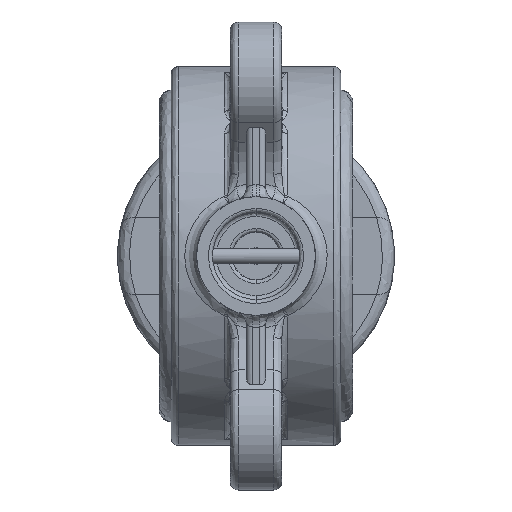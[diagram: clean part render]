
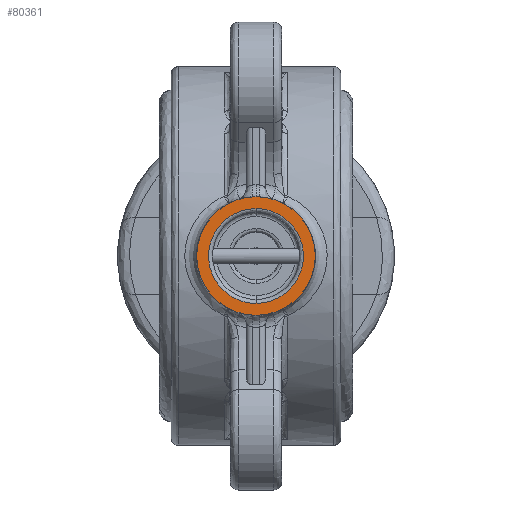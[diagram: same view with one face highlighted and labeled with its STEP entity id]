
A CAD part, front view. The second image highlights one B-rep face of the part: STEP entity #80361.
In plain terms, the highlighted planar face has unit normal (0, -1, 0).
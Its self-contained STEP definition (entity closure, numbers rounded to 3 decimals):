
#2772 = EDGE_LOOP ( 'NONE', ( #11080, #31363 ) ) ;
#3548 = EDGE_CURVE ( 'NONE', #56624, #79734, #21179, .T. ) ;
#4684 = EDGE_LOOP ( 'NONE', ( #29904, #44089 ) ) ;
#11080 = ORIENTED_EDGE ( 'NONE', *, *, #17502, .F. ) ;
#17502 = EDGE_CURVE ( 'NONE', #60844, #68730, #83138, .T. ) ;
#19090 = CARTESIAN_POINT ( 'NONE',  ( 0., -64., 12. ) ) ;
#20280 = CARTESIAN_POINT ( 'NONE',  ( 0., -64., 12. ) ) ;
#21179 = CIRCLE ( 'NONE', #69300, 15. ) ;
#21377 = AXIS2_PLACEMENT_3D ( 'NONE', #72561, #71691, #32191 ) ;
#21740 = FACE_OUTER_BOUND ( 'NONE', #4684, .T. ) ;
#22543 = CIRCLE ( 'NONE', #61669, 15. ) ;
#25433 = CARTESIAN_POINT ( 'NONE',  ( 24., -64., 12. ) ) ;
#28961 = FACE_BOUND ( 'NONE', #2772, .T. ) ;
#29904 = ORIENTED_EDGE ( 'NONE', *, *, #3548, .F. ) ;
#31363 = ORIENTED_EDGE ( 'NONE', *, *, #44327, .F. ) ;
#32191 = DIRECTION ( 'NONE',  ( 0., 0., 1. ) ) ;
#33579 = DIRECTION ( 'NONE',  ( 0., 1., 0. ) ) ;
#33727 = EDGE_CURVE ( 'NONE', #79734, #56624, #22543, .T. ) ;
#39024 = CARTESIAN_POINT ( 'NONE',  ( 24., -64., -12. ) ) ;
#39494 = CARTESIAN_POINT ( 'NONE',  ( 0., -64., 0. ) ) ;
#44089 = ORIENTED_EDGE ( 'NONE', *, *, #33727, .F. ) ;
#44327 = EDGE_CURVE ( 'NONE', #68730, #60844, #72369, .T. ) ;
#51311 = CARTESIAN_POINT ( 'NONE',  ( -24., -64., 12. ) ) ;
#51743 = CARTESIAN_POINT ( 'NONE',  ( 0., -64., -12. ) ) ;
#51907 = DIRECTION ( 'NONE',  ( 0., 0., 1. ) ) ;
#53507 = CARTESIAN_POINT ( 'NONE',  ( 0., -64., 15. ) ) ;
#56624 = VERTEX_POINT ( 'NONE', #53507 ) ;
#57079 = CARTESIAN_POINT ( 'NONE',  ( 0., -64., 12. ) ) ;
#58246 = DIRECTION ( 'NONE',  ( 0., 1., 0. ) ) ;
#59325 = PLANE ( 'NONE',  #21377 ) ;
#60844 = VERTEX_POINT ( 'NONE', #20280 ) ;
#61669 = AXIS2_PLACEMENT_3D ( 'NONE', #39494, #58246, #51907 ) ;
#62336 = CARTESIAN_POINT ( 'NONE',  ( 0., -64., -15. ) ) ;
#64804 = CARTESIAN_POINT ( 'NONE',  ( 0., -64., -12. ) ) ;
#67010 = DIRECTION ( 'NONE',  ( 0., 0., 1. ) ) ;
#68730 = VERTEX_POINT ( 'NONE', #71145 ) ;
#69300 = AXIS2_PLACEMENT_3D ( 'NONE', #73064, #33579, #67010 ) ;
#71145 = CARTESIAN_POINT ( 'NONE',  ( 0., -64., -12. ) ) ;
#71691 = DIRECTION ( 'NONE',  ( 0., 1., 0. ) ) ;
#72369 =( BOUNDED_CURVE ( )  B_SPLINE_CURVE ( 3, ( #51743, #39024, #25433, #19090 ),
 .UNSPECIFIED., .F., .F. ) 
 B_SPLINE_CURVE_WITH_KNOTS ( ( 4, 4 ),
 ( 0.5, 1. ),
 .UNSPECIFIED. ) 
 CURVE ( )  GEOMETRIC_REPRESENTATION_ITEM ( )  RATIONAL_B_SPLINE_CURVE ( ( 1., 0.333, 0.333, 1. ) ) 
 REPRESENTATION_ITEM ( '' )  );
#72561 = CARTESIAN_POINT ( 'NONE',  ( 0., -64., -15. ) ) ;
#73064 = CARTESIAN_POINT ( 'NONE',  ( 0., -64., 0. ) ) ;
#79734 = VERTEX_POINT ( 'NONE', #62336 ) ;
#80361 = ADVANCED_FACE ( 'NONE', ( #21740, #28961 ), #59325, .F. ) ;
#83138 =( BOUNDED_CURVE ( )  B_SPLINE_CURVE ( 3, ( #57079, #51311, #83527, #64804 ),
 .UNSPECIFIED., .F., .F. ) 
 B_SPLINE_CURVE_WITH_KNOTS ( ( 4, 4 ),
 ( 0., 0.5 ),
 .UNSPECIFIED. ) 
 CURVE ( )  GEOMETRIC_REPRESENTATION_ITEM ( )  RATIONAL_B_SPLINE_CURVE ( ( 1., 0.333, 0.333, 1. ) ) 
 REPRESENTATION_ITEM ( '' )  );
#83527 = CARTESIAN_POINT ( 'NONE',  ( -24., -64., -12. ) ) ;
